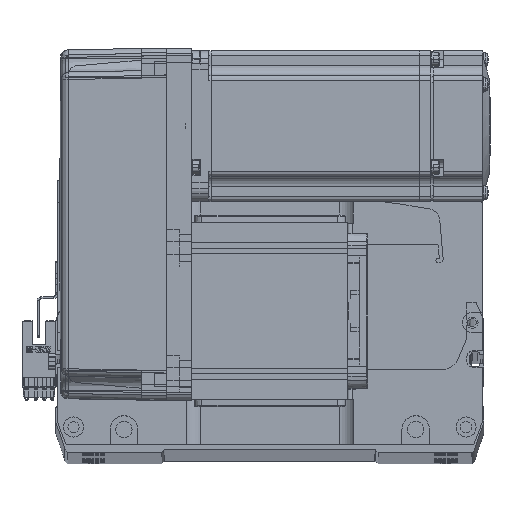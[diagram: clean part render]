
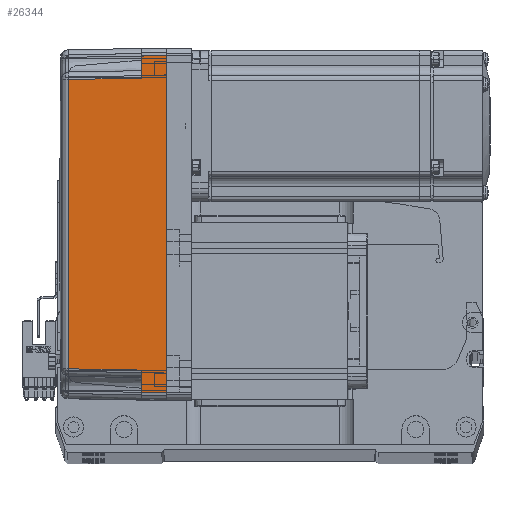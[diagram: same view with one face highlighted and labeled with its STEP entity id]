
A CAD part, top view. The second image highlights one B-rep face of the part: STEP entity #26344.
In plain terms, the highlighted planar face has unit normal (-0.018, 0, 1) as drawn and (0, 1, 0.017) by its records, which use the part's own axes.
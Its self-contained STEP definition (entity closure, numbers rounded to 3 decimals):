
#248 = B_SPLINE_CURVE_WITH_KNOTS ( 'NONE', 3,
 ( #47396, #15294, #53044, #68580 ),
 .UNSPECIFIED., .F., .F.,
 ( 4, 4 ),
 ( 0., 1. ),
 .UNSPECIFIED. ) ;
#517 = FACE_OUTER_BOUND ( 'NONE', #59529, .T. ) ;
#1054 = CARTESIAN_POINT ( 'NONE',  ( -57.495, 35.32, 38.985 ) ) ;
#1810 = VERTEX_POINT ( 'NONE', #2925 ) ;
#1972 = DIRECTION ( 'NONE',  ( 1., 0., 0. ) ) ;
#2925 = CARTESIAN_POINT ( 'NONE',  ( 57.495, 35.32, 38.985 ) ) ;
#4851 = EDGE_CURVE ( 'NONE', #12207, #13798, #5895, .T. ) ;
#5417 = VERTEX_POINT ( 'NONE', #58122 ) ;
#5895 = LINE ( 'NONE', #41439, #67823 ) ;
#6276 = VECTOR ( 'NONE', #42919, 1000. ) ;
#8895 = CARTESIAN_POINT ( 'NONE',  ( 70., 36., 0. ) ) ;
#12207 = VERTEX_POINT ( 'NONE', #26766 ) ;
#12342 = DIRECTION ( 'NONE',  ( -0.017, -0.017, 1. ) ) ;
#13345 = DIRECTION ( 'NONE',  ( 0., 1., 0.017 ) ) ;
#13798 = VERTEX_POINT ( 'NONE', #1054 ) ;
#15288 = VERTEX_POINT ( 'NONE', #53146 ) ;
#15294 = CARTESIAN_POINT ( 'NONE',  ( -19.165, 35.316, 39.181 ) ) ;
#19535 = DIRECTION ( 'NONE',  ( 0.017, -0.017, 1. ) ) ;
#21415 = CARTESIAN_POINT ( 'NONE',  ( 66.826, 35.825, 10. ) ) ;
#21839 = EDGE_CURVE ( 'NONE', #13798, #1810, #248, .T. ) ;
#22104 = CARTESIAN_POINT ( 'NONE',  ( 57.495, 35.32, 38.985 ) ) ;
#23076 = CARTESIAN_POINT ( 'NONE',  ( 0., 36., 0. ) ) ;
#23191 = EDGE_CURVE ( 'NONE', #5417, #34076, #54763, .T. ) ;
#23685 = CARTESIAN_POINT ( 'NONE',  ( 70., 35.825, 10. ) ) ;
#24936 = CARTESIAN_POINT ( 'NONE',  ( 70., 35.825, 10. ) ) ;
#25080 = PLANE ( 'NONE',  #51042 ) ;
#25796 = ORIENTED_EDGE ( 'NONE', *, *, #4851, .T. ) ;
#26344 = ADVANCED_FACE ( 'NONE', ( #517 ), #25080, .T. ) ;
#26766 = CARTESIAN_POINT ( 'NONE',  ( -58., 35.825, 10. ) ) ;
#31486 = VERTEX_POINT ( 'NONE', #44735 ) ;
#31788 = ORIENTED_EDGE ( 'NONE', *, *, #23191, .T. ) ;
#34076 = VERTEX_POINT ( 'NONE', #21415 ) ;
#35607 = ORIENTED_EDGE ( 'NONE', *, *, #48023, .T. ) ;
#41439 = CARTESIAN_POINT ( 'NONE',  ( -58., 35.825, 10. ) ) ;
#42265 = VERTEX_POINT ( 'NONE', #66632 ) ;
#42919 = DIRECTION ( 'NONE',  ( 0.017, 0.017, -1. ) ) ;
#43172 = ORIENTED_EDGE ( 'NONE', *, *, #47622, .T. ) ;
#43454 = CARTESIAN_POINT ( 'NONE',  ( 67.001, 36.001, -0.052 ) ) ;
#43975 = ORIENTED_EDGE ( 'NONE', *, *, #59728, .F. ) ;
#44735 = CARTESIAN_POINT ( 'NONE',  ( 67., 36., 0. ) ) ;
#44746 = DIRECTION ( 'NONE',  ( 1., 0., 0. ) ) ;
#45522 = CARTESIAN_POINT ( 'NONE',  ( -67., 36., 0. ) ) ;
#45859 = VECTOR ( 'NONE', #12342, 1000. ) ;
#47396 = CARTESIAN_POINT ( 'NONE',  ( -57.495, 35.32, 38.985 ) ) ;
#47505 = LINE ( 'NONE', #23076, #63332 ) ;
#47622 = EDGE_CURVE ( 'NONE', #15288, #42265, #50512, .T. ) ;
#48023 = EDGE_CURVE ( 'NONE', #42265, #12207, #65349, .T. ) ;
#49490 = VECTOR ( 'NONE', #61802, 1000. ) ;
#50512 = LINE ( 'NONE', #45522, #58847 ) ;
#51042 = AXIS2_PLACEMENT_3D ( 'NONE', #8895, #13345, #56863 ) ;
#53044 = CARTESIAN_POINT ( 'NONE',  ( 19.165, 35.316, 39.181 ) ) ;
#53146 = CARTESIAN_POINT ( 'NONE',  ( -67., 36., 0. ) ) ;
#53908 = ORIENTED_EDGE ( 'NONE', *, *, #21839, .T. ) ;
#54763 = LINE ( 'NONE', #23685, #63866 ) ;
#55588 = EDGE_CURVE ( 'NONE', #31486, #34076, #65803, .T. ) ;
#56863 = DIRECTION ( 'NONE',  ( 0., -0.017, 1. ) ) ;
#58122 = CARTESIAN_POINT ( 'NONE',  ( 58., 35.825, 10. ) ) ;
#58847 = VECTOR ( 'NONE', #19535, 1000. ) ;
#59529 = EDGE_LOOP ( 'NONE', ( #43172, #35607, #25796, #53908, #68263, #31788, #64862, #43975 ) ) ;
#59728 = EDGE_CURVE ( 'NONE', #15288, #31486, #47505, .T. ) ;
#60722 = LINE ( 'NONE', #22104, #6276 ) ;
#61802 = DIRECTION ( 'NONE',  ( 1., 0., 0. ) ) ;
#62449 = DIRECTION ( 'NONE',  ( 0.017, -0.017, 1. ) ) ;
#63332 = VECTOR ( 'NONE', #1972, 1000. ) ;
#63866 = VECTOR ( 'NONE', #44746, 1000. ) ;
#64862 = ORIENTED_EDGE ( 'NONE', *, *, #55588, .F. ) ;
#65349 = LINE ( 'NONE', #24936, #49490 ) ;
#65803 = LINE ( 'NONE', #43454, #45859 ) ;
#66632 = CARTESIAN_POINT ( 'NONE',  ( -66.826, 35.825, 10. ) ) ;
#67823 = VECTOR ( 'NONE', #62449, 1000. ) ;
#68056 = EDGE_CURVE ( 'NONE', #1810, #5417, #60722, .T. ) ;
#68263 = ORIENTED_EDGE ( 'NONE', *, *, #68056, .T. ) ;
#68580 = CARTESIAN_POINT ( 'NONE',  ( 57.495, 35.32, 38.985 ) ) ;
